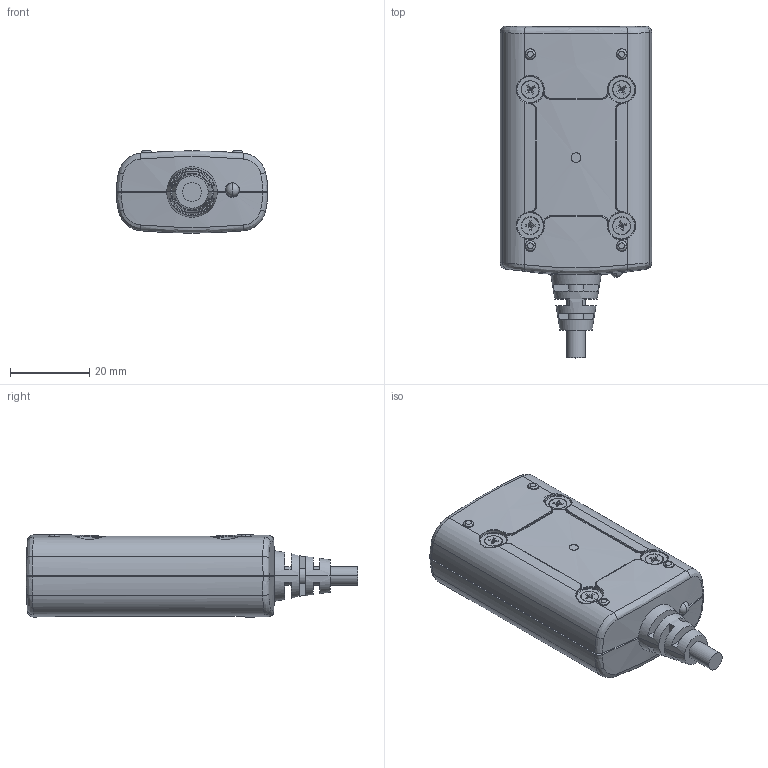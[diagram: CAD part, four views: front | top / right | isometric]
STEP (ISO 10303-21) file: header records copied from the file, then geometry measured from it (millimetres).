
FILE_DESCRIPTION((''),'2;1');
FILE_NAME('CU_NI_USB-TC01','2011-02-08T',('dkendric'),(''),'PRO/ENGINEER BY PARAMETRIC TECHNOLOGY CORPORATION, 2010230','PRO/ENGINEER BY PARAMETRIC TECHNOLOGY CORPORATION, 2010230','');
FILE_SCHEMA(('CONFIG_CONTROL_DESIGN'));
Length unit declared in the file: inch
Products named in the file (1): CU_NI_USB-TC01
Bounding box: 38.1 x 83.57 x 20.7 mm (x, y, z)
Volume: 17761 mm3; surface area: 17560.3 mm2
Topology: 2 solids, 2 shells, 1055 faces, 2732 edges, 1645 vertices
Faces by surface type: bspline 380, plane 325, extrusion 122, cylinder 96, cone 78, torus 52, sphere 2
Entity records: 50949 total; most frequent: CARTESIAN_POINT 29053, ORIENTED_EDGE 5300, DIRECTION 3184, EDGE_CURVE 2650, VERTEX_POINT 1721, B_SPLINE_CURVE_WITH_KNOTS 1309, EDGE_LOOP 1125, VECTOR 1092
